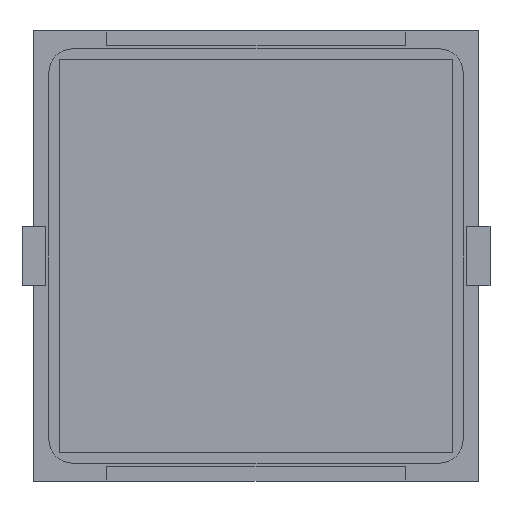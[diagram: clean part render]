
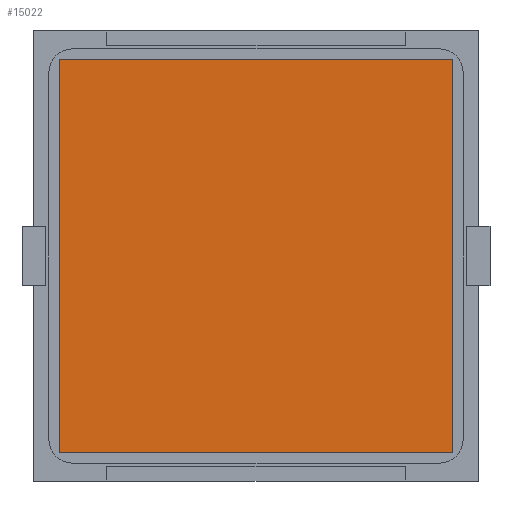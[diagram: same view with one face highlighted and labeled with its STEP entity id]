
A CAD part, front view. The second image highlights one B-rep face of the part: STEP entity #15022.
In plain terms, the highlighted planar face has unit normal (0, -1, 0).
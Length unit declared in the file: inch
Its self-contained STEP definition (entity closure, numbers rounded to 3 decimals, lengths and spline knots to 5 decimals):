
#7 = CARTESIAN_POINT ( 'NONE',  ( 0.64961, -0.005, 0.64961 ) ) ;
#676 = CARTESIAN_POINT ( 'NONE',  ( -0.64961, -0.005, -0.64961 ) ) ;
#1959 = EDGE_LOOP ( 'NONE', ( #14273, #8751, #3790, #7590 ) ) ;
#3307 = VERTEX_POINT ( 'NONE', #3997 ) ;
#3527 = EDGE_CURVE ( 'NONE', #10947, #3307, #12474, .T. ) ;
#3790 = ORIENTED_EDGE ( 'NONE', *, *, #11625, .T. ) ;
#3807 = DIRECTION ( 'NONE',  ( 0., 0., 1. ) ) ;
#3997 = CARTESIAN_POINT ( 'NONE',  ( -0.64961, -0.005, 0.64961 ) ) ;
#4544 = FACE_OUTER_BOUND ( 'NONE', #1959, .T. ) ;
#4702 = PLANE ( 'NONE',  #5611 ) ;
#4801 = LINE ( 'NONE', #15846, #14799 ) ;
#5465 = CARTESIAN_POINT ( 'NONE',  ( 0.64961, -0.005, -0.64961 ) ) ;
#5611 = AXIS2_PLACEMENT_3D ( 'NONE', #7, #11219, #3807 ) ;
#5796 = VECTOR ( 'NONE', #13060, 39.37008 ) ;
#6874 = CARTESIAN_POINT ( 'NONE',  ( -0.64961, -0.005, -0.64961 ) ) ;
#7119 = EDGE_CURVE ( 'NONE', #14008, #10850, #4801, .T. ) ;
#7266 = VECTOR ( 'NONE', #12797, 39.37008 ) ;
#7590 = ORIENTED_EDGE ( 'NONE', *, *, #7119, .T. ) ;
#8387 = VECTOR ( 'NONE', #12395, 39.37008 ) ;
#8751 = ORIENTED_EDGE ( 'NONE', *, *, #3527, .T. ) ;
#9031 = CARTESIAN_POINT ( 'NONE',  ( 0.64961, -0.005, 0.64961 ) ) ;
#9422 = EDGE_CURVE ( 'NONE', #10850, #10947, #14626, .T. ) ;
#9787 = DIRECTION ( 'NONE',  ( 1., 0., 0. ) ) ;
#10850 = VERTEX_POINT ( 'NONE', #5465 ) ;
#10947 = VERTEX_POINT ( 'NONE', #13851 ) ;
#11219 = DIRECTION ( 'NONE',  ( 0., -1., 0. ) ) ;
#11625 = EDGE_CURVE ( 'NONE', #3307, #14008, #12020, .T. ) ;
#12020 = LINE ( 'NONE', #6874, #8387 ) ;
#12395 = DIRECTION ( 'NONE',  ( 0., 0., -1. ) ) ;
#12474 = LINE ( 'NONE', #9031, #7266 ) ;
#12797 = DIRECTION ( 'NONE',  ( -1., 0., 0. ) ) ;
#13060 = DIRECTION ( 'NONE',  ( 0., 0., 1. ) ) ;
#13851 = CARTESIAN_POINT ( 'NONE',  ( 0.64961, -0.005, 0.64961 ) ) ;
#14008 = VERTEX_POINT ( 'NONE', #676 ) ;
#14273 = ORIENTED_EDGE ( 'NONE', *, *, #9422, .T. ) ;
#14626 = LINE ( 'NONE', #15922, #5796 ) ;
#14799 = VECTOR ( 'NONE', #9787, 39.37008 ) ;
#15022 = ADVANCED_FACE ( 'NONE', ( #4544 ), #4702, .T. ) ;
#15846 = CARTESIAN_POINT ( 'NONE',  ( 0.64961, -0.005, -0.64961 ) ) ;
#15922 = CARTESIAN_POINT ( 'NONE',  ( 0.64961, -0.005, -0.64961 ) ) ;
